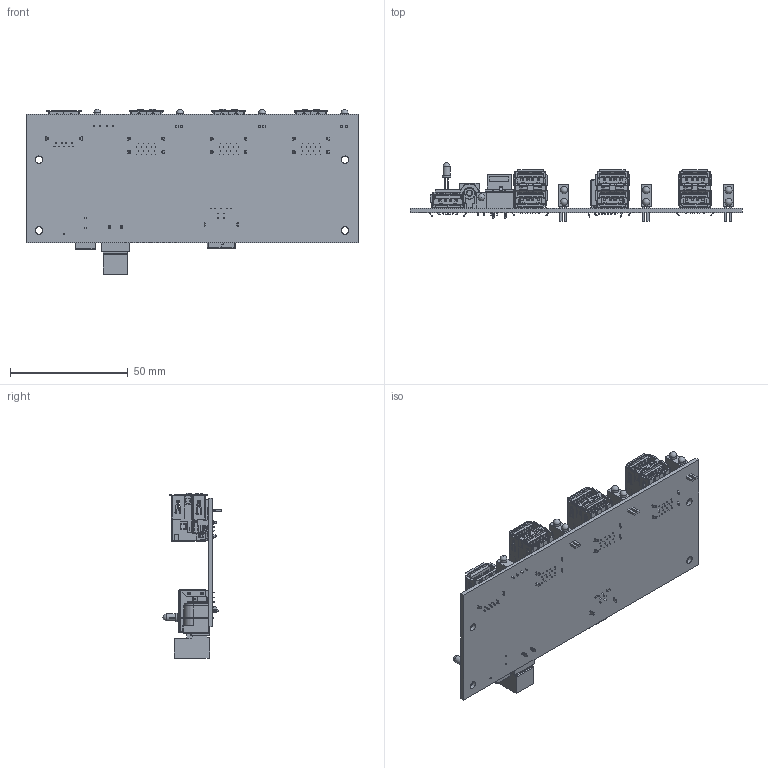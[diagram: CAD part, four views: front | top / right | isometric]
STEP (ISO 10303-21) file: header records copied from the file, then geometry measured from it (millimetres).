
FILE_DESCRIPTION(/* description */ (''),/* implementation_level */ '2;1');
FILE_NAME(/* name */ 'C:/Users/Leo Pinto/Documents/Fusion 360/AA PCBAs/CG-7PU31HB-PCBA/CG-7PU31HB Model3d LPv1.step',/* time_stamp */ '2022-07-08T06:59:12-04:00',/* author */ (''),/* organization */ (''),/* preprocessor_version */ 'ST-DEVELOPER v19',/* originating_system */ 'Autodesk Translation Framework v11.7.0.108',/* authorisation */ '');
FILE_SCHEMA (('AUTOMOTIVE_DESIGN { 1 0 10303 214 3 1 1 }'));
Products named in the file (65): CG-7PU31HB; Component1; Connector Volts SMALL v1; Component1 (1); Component2; Component3 (1); Component4 (1); Connector green Phoenix 2 holes female 5.08 v1; 3mm_LED v1; 3mm_LED; led_energy (1); led_energy; led_pin.1.1.1 (1); led_pin.1.1.1; led_pin.2.1 (1); led_pin.2.1; Connector green phoenix 2pines male 5.08 v6; Component51; LED 1 Block mounting pcb v2; User_Library-Led_3mm_Dialight_mod__551-1107F; USB type A 2 Gen Blue.2Gen1 v1; Housing1; Housing2; pin1 (1); shielding; pin2 (1); shielding_2; Housing3; pin3; pin4; pin5; pin3_mir2; pin4_mir2; USB Type A Single Blue v1; Download_STP_692121030100_(rev1) (1); housing1 (1); housing2 (1); shielding (2); pin1 (2); pin2 (2)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
Assembly tree (88 placements, depth 5):
  CG-7PU31HB
    Component1
    Connector Volts SMALL v1
      Component1 (1)
      Component2
      Component3 (1)
      Component4 (1)
    Connector green Phoenix 2 holes female 5.08 v1
    3mm_LED v1
      3mm_LED
        led_energy (1)
          led_energy
        led_pin.1.1.1 (1)
          led_pin.1.1.1
        led_pin.2.1 (1)
          led_pin.2.1
    Connector green phoenix 2pines male 5.08 v6
    Component51
    LED 1 Block mounting pcb v2
      User_Library-Led_3mm_Dialight_mod__551-1107F
    USB type A 2 Gen Blue.2Gen1 v1
      Housing1
      Housing2
      pin1 (1)  x2
      shielding
      pin2 (1)  x2
      shielding_2
      Housing3
      pin3
      pin4
      pin5
      pin3_mir2
      pin4_mir2
    USB Type A Single Blue v1
      Download_STP_692121030100_(rev1) (1)
        housing1 (1)
        pin1 (2)  x5
        housing2 (1)
        pin2 (2)  x2
        pin (1)  x2
        shielding (2)
    USB Type A Double Blue.0 v4  x3
      pin1
      pin4 (1)
      pin3 (1)
      pin2
      pin5 (1)
      pin6
      Housing1 (1)_1
      Housing
      Housing2 (1)_1
      Housing4
      Shielding2
      Shielding_1
    LED 2 Block mounting pcb v4  x3
      6611124864
        Sphere
      6611124480
        Sphere (1)
      6662586176
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Bounding box: 141.18 x 24.82 x 70.49 mm (x, y, z)
Volume: 26610.4 mm3; surface area: 54344.9 mm2
Topology: 124 solids, 124 shells, 8481 faces, 23905 edges, 15638 vertices
Faces by surface type: plane 6276, cylinder 2120, bspline 52, cone 17, sphere 14, torus 2
Full cylindrical faces by diameter (mm): 1 x4, 1.6 x2, 1.679 x1, 2.16 x1, 2.89 x1, 2.998 x1, 3 x6, 3.2 x4, 3.54 x1, 3.643 x1, 3.86 x2, 5.04 x2, 5.2 x4, 6 x1
Entity records: 127385 total; most frequent: CARTESIAN_POINT 22818, ORIENTED_EDGE 21500, DIRECTION 20407, EDGE_CURVE 10750, LINE 8859, VECTOR 8859, VERTEX_POINT 7024, AXIS2_PLACEMENT_3D 5774
